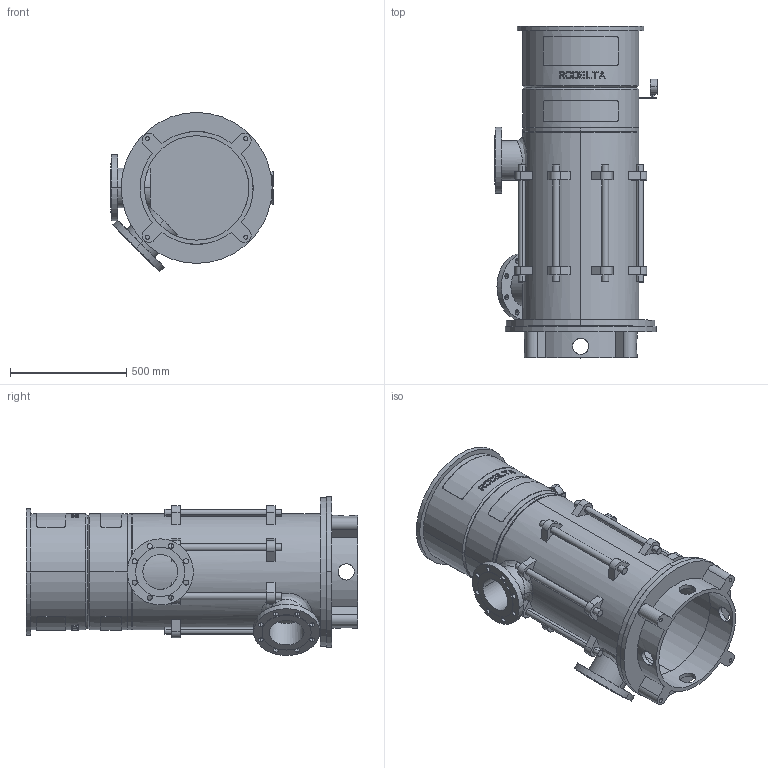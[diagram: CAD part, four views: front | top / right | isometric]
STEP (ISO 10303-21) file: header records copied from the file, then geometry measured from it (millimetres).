
FILE_DESCRIPTION((''),'2;1');
FILE_NAME('LS6_3TR_0GR_ABOVE_30KW','2023-08-15T',('Lyritlocal'),(''),'PRO/ENGINEER BY PARAMETRIC TECHNOLOGY CORPORATION, 2016360','PRO/ENGINEER BY PARAMETRIC TECHNOLOGY CORPORATION, 2016360','');
FILE_SCHEMA(('CONFIG_CONTROL_DESIGN'));
Length unit declared in the file: millimetre
Products named in the file (1): LS6_3TR_0GR_ABOVE_30KW
Bounding box: 700 x 1429 x 685.27 mm (x, y, z)
Volume: 48051501.3 mm3; surface area: 6574507.2 mm2
Topology: 3 solids, 7 shells, 684 faces, 1767 edges, 1174 vertices
Faces by surface type: plane 422, cylinder 242, cone 12, bspline 8
Entity records: 22643 total; most frequent: CARTESIAN_POINT 6031, ORIENTED_EDGE 3518, DIRECTION 3273, EDGE_CURVE 1767, AXIS2_PLACEMENT_3D 1237, VERTEX_POINT 1174, EDGE_LOOP 829, VECTOR 799
